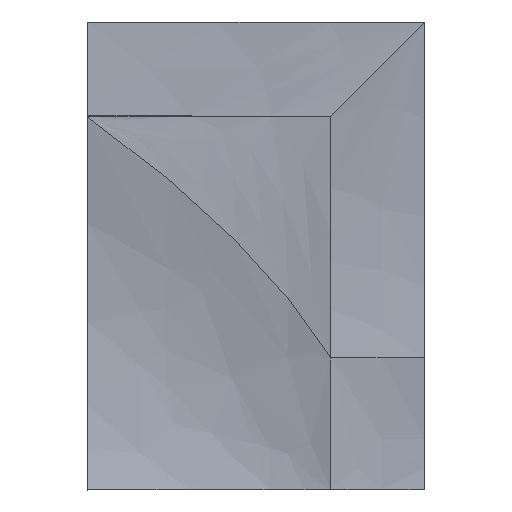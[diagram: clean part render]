
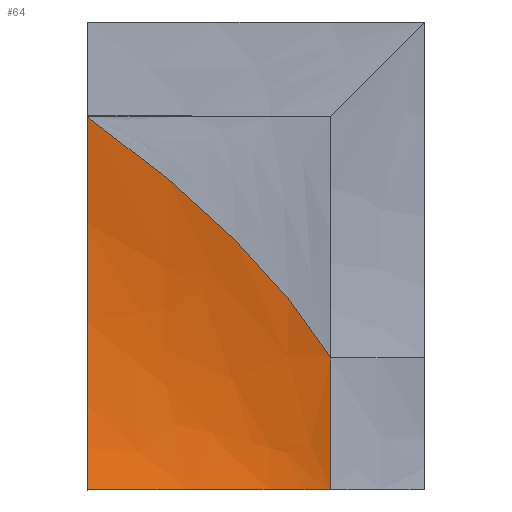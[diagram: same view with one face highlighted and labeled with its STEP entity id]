
A CAD part, top view. The second image highlights one B-rep face of the part: STEP entity #64.
In plain terms, the highlighted free-form (B-spline) face has degree [2, 2] with [3, 3] control points.
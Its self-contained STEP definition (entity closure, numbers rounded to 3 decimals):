
#64=ADVANCED_FACE('',(#94),#401,.T.);
#94=FACE_OUTER_BOUND('',#124,.T.);
#124=EDGE_LOOP('',(#178,#179,#180,#181));
#178=ORIENTED_EDGE('',*,*,#281,.T.);
#179=ORIENTED_EDGE('',*,*,#282,.T.);
#180=ORIENTED_EDGE('',*,*,#271,.T.);
#181=ORIENTED_EDGE('',*,*,#276,.T.);
#271=EDGE_CURVE('',#357,#361,#328,.T.);
#276=EDGE_CURVE('',#361,#350,#333,.T.);
#281=EDGE_CURVE('',#350,#364,#338,.T.);
#282=EDGE_CURVE('',#364,#357,#339,.T.);
#328=B_SPLINE_CURVE_WITH_KNOTS('',2,(#758,#759,#760),.UNSPECIFIED.,.F.,
 .F.,(3,3),(1.,691.162),.UNSPECIFIED.);
#333=B_SPLINE_CURVE_WITH_KNOTS('',2,(#782,#783,#784),.UNSPECIFIED.,.F.,
 .F.,(3,3),(5719.949,6340.508),.UNSPECIFIED.);
#338=B_SPLINE_CURVE_WITH_KNOTS('',2,(#797,#798,#799),.UNSPECIFIED.,.F.,
 .F.,(3,3),(1962.163,1963.163),.UNSPECIFIED.);
#339=B_SPLINE_CURVE_WITH_KNOTS('',2,(#800,#801,#802),.UNSPECIFIED.,.F.,
 .F.,(3,3),(1966.163,2586.722),.UNSPECIFIED.);
#350=VERTEX_POINT('',#693);
#357=VERTEX_POINT('',#700);
#361=VERTEX_POINT('',#704);
#364=VERTEX_POINT('',#707);
#401=B_SPLINE_SURFACE_WITH_KNOTS('',2,2,((#646,#647,#648),(#649,#650,#651),
(#652,#653,#654)),.UNSPECIFIED.,.F.,.F.,.F.,(3,3),(3,3),(-2586.722,
-1966.163),(1962.163,1963.163),.UNSPECIFIED.);
#646=CARTESIAN_POINT('',(-576.022,-1500.103,420.193));
#647=CARTESIAN_POINT('',(-819.039,-1500.063,364.273));
#648=CARTESIAN_POINT('',(-1356.04,-1500.,420.209));
#649=CARTESIAN_POINT('',(-576.022,-1386.758,421.423));
#650=CARTESIAN_POINT('',(-818.322,-1193.229,310.846));
#651=CARTESIAN_POINT('',(-1356.04,-1000.034,301.678));
#652=CARTESIAN_POINT('',(-576.022,-1076.98,420.));
#653=CARTESIAN_POINT('',(-817.605,-689.807,374.419));
#654=CARTESIAN_POINT('',(-1356.04,-303.327,419.802));
#693=CARTESIAN_POINT('',(-576.022,-1076.98,420.));
#700=CARTESIAN_POINT('',(-1356.04,-1500.,420.209));
#704=CARTESIAN_POINT('',(-576.022,-1500.103,420.193));
#707=CARTESIAN_POINT('',(-1356.04,-303.327,419.802));
#758=CARTESIAN_POINT('',(-1356.04,-1500.,420.209));
#759=CARTESIAN_POINT('',(-819.039,-1500.063,364.273));
#760=CARTESIAN_POINT('',(-576.022,-1500.103,420.193));
#782=CARTESIAN_POINT('',(-576.022,-1500.103,420.193));
#783=CARTESIAN_POINT('',(-576.022,-1386.758,421.423));
#784=CARTESIAN_POINT('',(-576.022,-1076.98,420.));
#797=CARTESIAN_POINT('',(-576.022,-1076.98,420.));
#798=CARTESIAN_POINT('',(-817.605,-689.807,374.419));
#799=CARTESIAN_POINT('',(-1356.04,-303.327,419.802));
#800=CARTESIAN_POINT('',(-1356.04,-303.327,419.802));
#801=CARTESIAN_POINT('',(-1356.04,-1000.034,301.678));
#802=CARTESIAN_POINT('',(-1356.04,-1500.,420.209));
